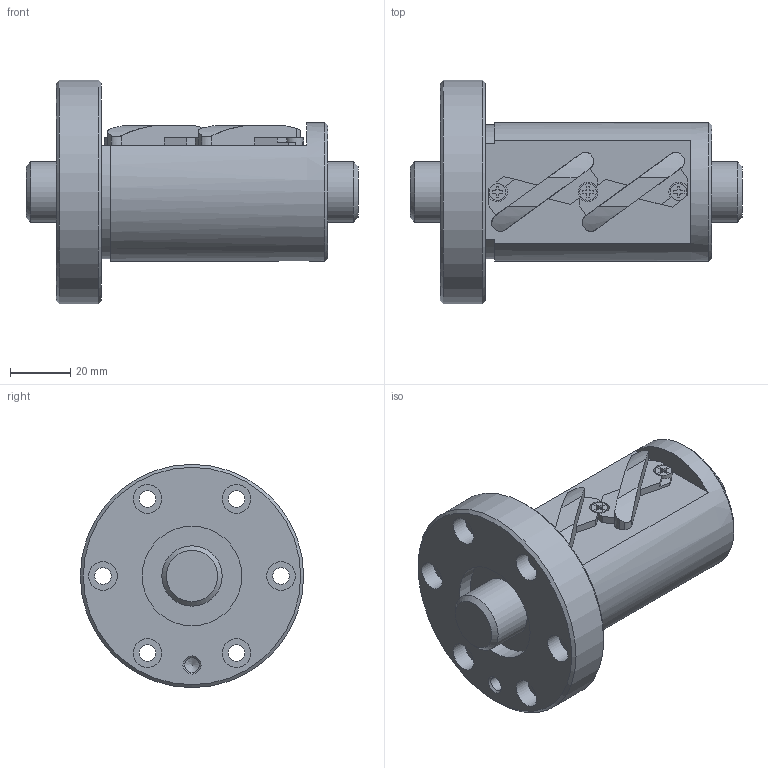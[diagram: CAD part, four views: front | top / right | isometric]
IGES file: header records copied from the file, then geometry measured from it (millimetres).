
Start section: Data from Parasolid IGES Translator 26.0.171, Copyright(c) 2006 Siemens PLM Software. All Rights Reserved.
Global section: file name: SBN2010V-5G0+110LC0(0000).igs; native system: By Siemens PLM Incorporated; preprocessor: XPlus GENERIC/IGES 26.0.171; author: Noname; organization: Noname; date: 20240528.102423; units: millimetre
Bounding box: 110 x 74 x 74 mm (x, y, z)
Surface area: 39117.1 mm2 (no closed solid volume)
Topology: 0 solids, 0 shells, 167 faces, 875 edges, 841 vertices
Faces by surface type: extrusion 104, revolution 63
